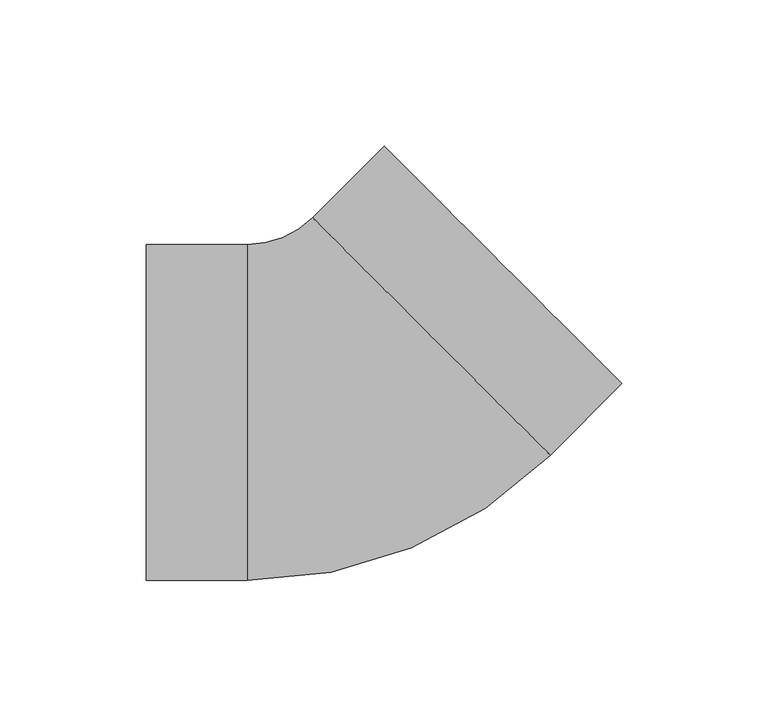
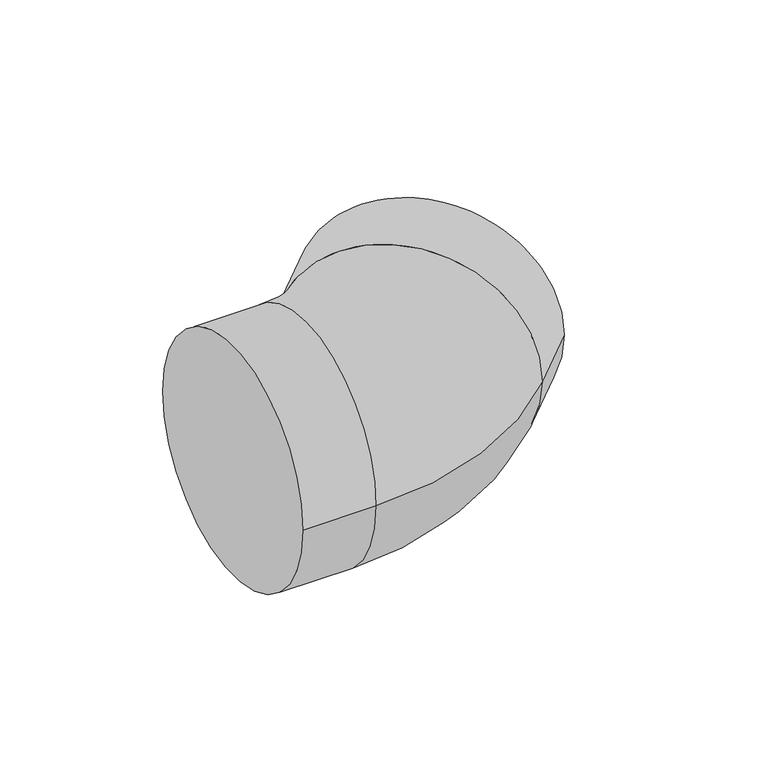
"""IFC4 building model written with IfcOpenShell, lengths in millimetres: pipe fitting geometry, PipeFitting_HTA_CPVC_Elbows : 90mm x 45°."""

from ifc_helpers import new_model, si_unit, point, frame, origin, place, context, project, spatial, circle_curve, ellipse_curve, trimmed, source, transform, mapped, element, save
from ifc_brep_helpers import plane_surface, cylinder_surface, revolved_surface, advanced_brep


def pipe_fitting_ff391a14(model_context):
    return source(origin(), model_context, "Body", "AdvancedBrep", [
        advanced_brep(
        [(-71.5, -57.5, 0.0), (-71.5, 57.5, 0.0), (-36.8650071, -57.5, 0.0), (-36.8650071, 57.5, 0.0), (-14.5911434, 66.7261364, 0.0), (66.7261364, -14.5911434, 0.0), (91.2167748, 9.8994949, 0.0), (9.8994949, 91.2167748, 0.0)],
        [
            (0, 1, circle_curve(frame((-71.5, 0.0, 0.0), z_axis=(-1.0, 0.0, 0.0), x_axis=(0.0, 1.0, 0.0)), 57.5)),
            (1, 0, circle_curve(frame((-71.5, 0.0, 0.0), z_axis=(-1.0, 0.0, 0.0), x_axis=(0.0, 1.0, 0.0)), 57.5)),
            (0, 2),
            (2, 3, circle_curve(frame((-36.8650071, 0.0, 0.0), z_axis=(-1.0, 0.0, 0.0), x_axis=(0.0, 1.0, 0.0)), 57.5)),
            (3, 1),
            (3, 2, circle_curve(frame((-36.8650071, 0.0, 0.0), z_axis=(-1.0, 0.0, 0.0), x_axis=(0.0, 1.0, 0.0)), 57.5)),
            (4, 3, circle_curve(frame((-36.8650071, 89.0, 0.0), z_axis=(0.0, 0.0, -1.0), x_axis=(0.0, -1.0, 0.0)), 31.5)),
            (2, 5, circle_curve(frame((-36.8650071, 89.0, 0.0), z_axis=(0.0, 0.0, 1.0), x_axis=(0.0, -1.0, 0.0)), 146.5)),
            (5, 4, circle_curve(frame((26.0674965, 26.0674965, 0.0), z_axis=(-0.707106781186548, -0.707106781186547, 0.0), x_axis=(-0.707106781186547, 0.707106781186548, 0.0)), 57.5)),
            (4, 5, circle_curve(frame((26.0674965, 26.0674965, 0.0), z_axis=(-0.7071067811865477, -0.7071067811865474, 0.0), x_axis=(-0.7071067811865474, 0.7071067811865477, 0.0)), 57.5)),
            (6, 7, circle_curve(frame((50.5581349, 50.5581349, 0.0), z_axis=(0.707106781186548, 0.707106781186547, 0.0), x_axis=(-0.707106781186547, 0.707106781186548, 0.0)), 57.5)),
            (7, 6, circle_curve(frame((50.5581349, 50.5581349, 0.0), z_axis=(0.707106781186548, 0.707106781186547, 0.0), x_axis=(-0.707106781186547, 0.707106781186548, 0.0)), 57.5)),
            (5, 6),
            (7, 4),
        ],
        [
            plane_surface(frame((-71.5, 0.0, 0.0), z_axis=(-1.0, 0.0, 0.0), x_axis=(0.0, 0.0, 1.0))),
            cylinder_surface(frame((-71.5, 0.0, 0.0), z_axis=(-1.0, 0.0, 0.0), x_axis=(0.0, 1.0, 0.0)), 57.5),
            revolved_surface(trimmed(ellipse_curve(frame((-36.8650071, 0.0, 0.0), z_axis=(-1.0, 0.0, 0.0), x_axis=(0.0, 1.0, 0.0)), 57.5, 57.5), [point((-36.8650071, -57.5, 0.0))], [point((-36.8650071, 57.5, 0.0))], True, "CARTESIAN"), (-36.8650071, 89.0, 0.0), (0.0, 0.0, 1.0)),
            revolved_surface(trimmed(ellipse_curve(frame((-36.8650071, 0.0, 0.0), z_axis=(-1.0, 0.0, 0.0), x_axis=(0.0, 1.0, 0.0)), 57.5, 57.5), [point((-36.8650071, 57.5, 0.0))], [point((-36.8650071, -57.5, 0.0))], True, "CARTESIAN"), (-36.8650071, 89.0, 0.0), (0.0, 0.0, 1.0)),
            plane_surface(frame((50.5581349, 50.5581349, 0.0), z_axis=(0.707106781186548, 0.707106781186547, 0.0), x_axis=(0.0, 0.0, 1.0))),
            cylinder_surface(frame((26.0674965, 26.0674965, 0.0), z_axis=(-0.707106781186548, -0.707106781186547, 0.0), x_axis=(-0.707106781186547, 0.707106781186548, 0.0)), 57.5),
        ],
        [
            (0, [[1, 2]]),
            (1, [[-1, 3, 4, 5]]),
            (1, [[-2, -5, 6, -3]]),
            (2, [[7, -4, 8, 9]]),
            (3, [[-8, -6, -7, 10]]),
            (4, [[11, 12]]),
            (5, [[-9, 13, -12, 14]]),
            (5, [[-10, -14, -11, -13]]),
        ],
    ),
    ])


if __name__ == "__main__":
    model = new_model("IFC4")
    model_context = context("Model", 3, world=origin())
    ifc_project = project(units=[si_unit("LENGTHUNIT", "METRE", prefix="MILLI")], contexts=[model_context])
    site = spatial("IfcSite", under=ifc_project)
    building = spatial("IfcBuilding", under=site)
    placement = place(None, origin())
    pipe_fitting_shape = pipe_fitting_ff391a14(model_context)
    element("IfcPipeFitting", 1, ObjectType="PipeFitting_HTA_CPVC_Elbows : 90mm x 45°", at=placement, inside=building, context=model_context, shape_type="MappedRepresentation", body=[
        mapped(pipe_fitting_shape, transform((0.0, 0.0, 0.0), x_axis=(1.0, 0.0, 0.0), y_axis=(0.0, 1.0, 0.0), z_axis=(0.0, 0.0, 1.0))),
    ])
    save(model, "model.ifc")
